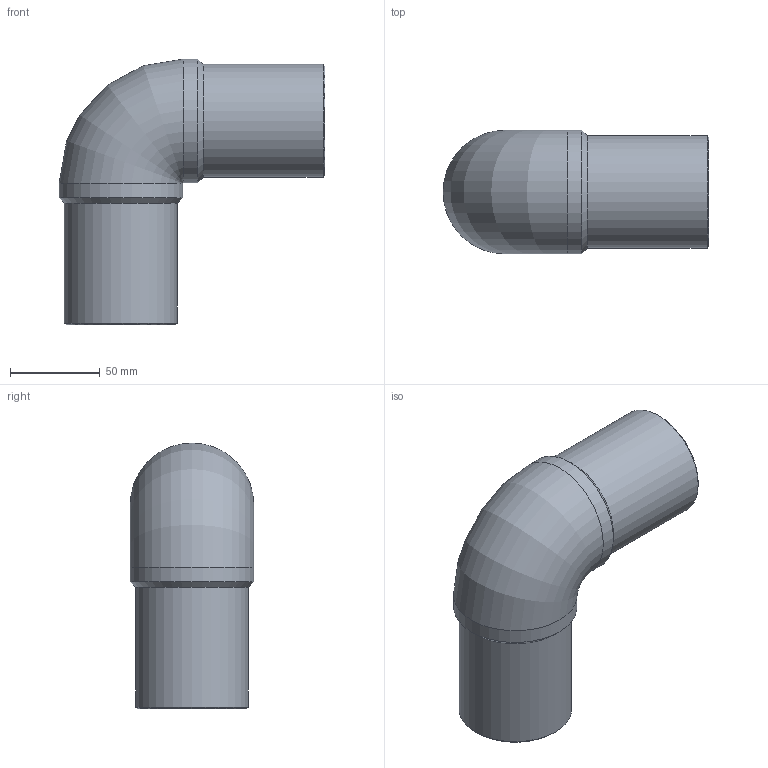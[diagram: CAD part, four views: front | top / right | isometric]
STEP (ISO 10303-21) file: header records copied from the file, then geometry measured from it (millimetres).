
FILE_DESCRIPTION(/* description */ ('Unknown'),/* implementation_level */ '2;1');
FILE_NAME(/* name */ 'G9P063H',/* time_stamp */ '2021-11-15T16:35:51+01:00',/* author */ ('Unknown'),/* organization */ ('Unknown'),/* preprocessor_version */ 'ST-DEVELOPER v16.7',/* originating_system */ 'Solid Edge',/* authorisation */ 'Unknown');
FILE_SCHEMA (('AUTOMOTIVE_DESIGN {1 0 10303 214 3 1 1}'));
Length unit declared in the file: millimetre
Products named in the file (1): G9P063H
Bounding box: 148.5 x 69 x 148.5 mm (x, y, z)
Volume: 361860.2 mm3; surface area: 77513.9 mm2
Topology: 1 solids, 1 shells, 14 faces, 34 edges, 22 vertices
Faces by surface type: cylinder 6, cone 4, plane 2, torus 2
Full cylindrical faces by diameter (mm): 45.8 x2, 63 x2, 69 x2
Entity records: 370 total; most frequent: CARTESIAN_POINT 70, DIRECTION 60, ORIENTED_EDGE 38, AXIS2_PLACEMENT_3D 30, EDGE_LOOP 27, FACE_BOUND 27, EDGE_CURVE 19, VERTEX_POINT 18
